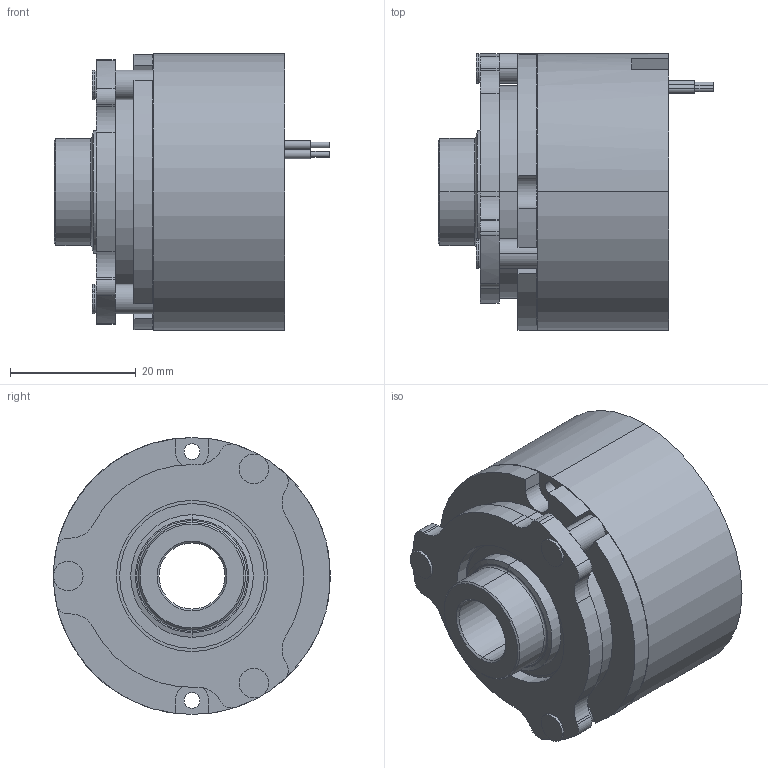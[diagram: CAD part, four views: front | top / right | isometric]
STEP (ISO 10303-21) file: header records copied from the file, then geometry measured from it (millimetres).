
FILE_DESCRIPTION (( 'STEP AP203' ), '1' );
FILE_NAME ('KS_10004A00_00438308.STEP', '2017-11-20T08:46:36', ( '' ), ( '' ), 'SwSTEP 2.0', 'SolidWorks 2015', '' );
FILE_SCHEMA (( 'CONFIG_CONTROL_DESIGN' ));
Length unit declared in the file: millimetre
Products named in the file (1): KS_10004A00_00438308
Bounding box: 43.73 x 44 x 44 mm (x, y, z)
Volume: 39570.7 mm3; surface area: 12816.4 mm2
Topology: 1 solids, 1 shells, 143 faces, 350 edges, 224 vertices
Faces by surface type: cylinder 83, plane 38, cone 18, torus 4
Entity records: 4351 total; most frequent: DIRECTION 824, CARTESIAN_POINT 714, ORIENTED_EDGE 692, EDGE_CURVE 346, AXIS2_PLACEMENT_3D 334, VERTEX_POINT 224, CIRCLE 190, EDGE_LOOP 174
